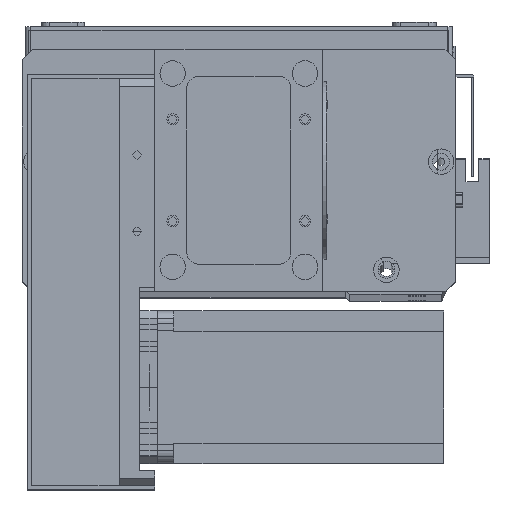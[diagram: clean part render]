
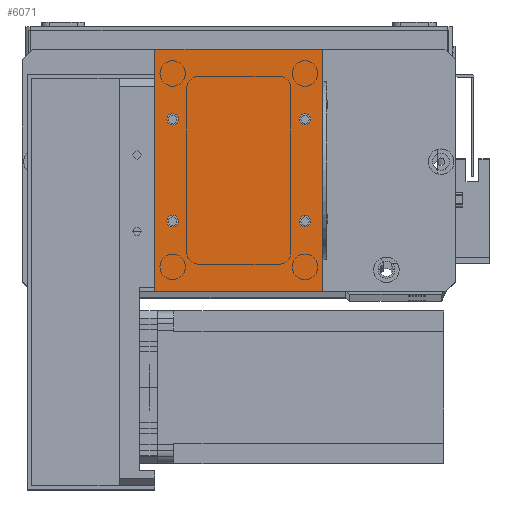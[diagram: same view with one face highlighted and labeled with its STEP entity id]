
A CAD part, top view. The second image highlights one B-rep face of the part: STEP entity #6071.
In plain terms, the highlighted planar face has unit normal (0, 0, 1).
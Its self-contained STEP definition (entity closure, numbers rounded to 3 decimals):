
#56 = CIRCLE ( 'NONE', #8124, 2.25 ) ;
#388 = CARTESIAN_POINT ( 'NONE',  ( 7., 67.5, 2. ) ) ;
#675 = EDGE_CURVE ( 'NONE', #29179, #32656, #3978, .T. ) ;
#938 = AXIS2_PLACEMENT_3D ( 'NONE', #4572, #22221, #7122 ) ;
#1188 = CARTESIAN_POINT ( 'NONE',  ( 0., 0., 2. ) ) ;
#1376 = CIRCLE ( 'NONE', #26912, 2.25 ) ;
#1389 = AXIS2_PLACEMENT_3D ( 'NONE', #10460, #28083, #13039 ) ;
#1893 = EDGE_LOOP ( 'NONE', ( #3931, #3055 ) ) ;
#2008 = DIRECTION ( 'NONE',  ( 0., 0., 1. ) ) ;
#2311 = CARTESIAN_POINT ( 'NONE',  ( 0., 0., 2. ) ) ;
#2525 = EDGE_CURVE ( 'NONE', #12620, #27032, #12170, .T. ) ;
#2618 = EDGE_CURVE ( 'NONE', #8606, #22276, #9745, .T. ) ;
#2932 = DIRECTION ( 'NONE',  ( 1., 0., 0. ) ) ;
#3055 = ORIENTED_EDGE ( 'NONE', *, *, #18185, .F. ) ;
#3191 = EDGE_LOOP ( 'NONE', ( #11255, #24444, #9358, #15906 ) ) ;
#3559 = PLANE ( 'NONE',  #16741 ) ;
#3931 = ORIENTED_EDGE ( 'NONE', *, *, #2618, .F. ) ;
#3959 = VERTEX_POINT ( 'NONE', #29389 ) ;
#3978 = LINE ( 'NONE', #20359, #23297 ) ;
#4427 = AXIS2_PLACEMENT_3D ( 'NONE', #388, #18073, #2932 ) ;
#4572 = CARTESIAN_POINT ( 'NONE',  ( 59., 67.5, 2. ) ) ;
#5036 = CARTESIAN_POINT ( 'NONE',  ( 66., 0., 2. ) ) ;
#5084 = FACE_BOUND ( 'NONE', #30360, .T. ) ;
#5107 = ORIENTED_EDGE ( 'NONE', *, *, #11245, .F. ) ;
#5994 = CARTESIAN_POINT ( 'NONE',  ( 0., 0., 2. ) ) ;
#6071 = ADVANCED_FACE ( 'NONE', ( #5084, #12619, #18540, #31110, #24373 ), #3559, .F. ) ;
#6092 = DIRECTION ( 'NONE',  ( 0., 0., -1. ) ) ;
#6785 = CARTESIAN_POINT ( 'NONE',  ( 4.75, 67.5, 2. ) ) ;
#7115 = LINE ( 'NONE', #2311, #19766 ) ;
#7122 = DIRECTION ( 'NONE',  ( 1., 0., 0. ) ) ;
#8111 = ORIENTED_EDGE ( 'NONE', *, *, #11149, .F. ) ;
#8124 = AXIS2_PLACEMENT_3D ( 'NONE', #24109, #9024, #26631 ) ;
#8214 = CARTESIAN_POINT ( 'NONE',  ( 61.25, 27.5, 2. ) ) ;
#8606 = VERTEX_POINT ( 'NONE', #23241 ) ;
#9024 = DIRECTION ( 'NONE',  ( 0., 0., 1. ) ) ;
#9358 = ORIENTED_EDGE ( 'NONE', *, *, #27673, .T. ) ;
#9456 = CARTESIAN_POINT ( 'NONE',  ( 61.25, 67.5, 2. ) ) ;
#9733 = CARTESIAN_POINT ( 'NONE',  ( 66., 0., 2. ) ) ;
#9745 = CIRCLE ( 'NONE', #14514, 2.25 ) ;
#9748 = CARTESIAN_POINT ( 'NONE',  ( 4.75, 27.5, 2. ) ) ;
#9871 = DIRECTION ( 'NONE',  ( 0., 0., 1. ) ) ;
#10417 = VERTEX_POINT ( 'NONE', #8214 ) ;
#10460 = CARTESIAN_POINT ( 'NONE',  ( 59., 67.5, 2. ) ) ;
#10576 = CARTESIAN_POINT ( 'NONE',  ( 56.75, 27.5, 2. ) ) ;
#11149 = EDGE_CURVE ( 'NONE', #27032, #12620, #21785, .T. ) ;
#11245 = EDGE_CURVE ( 'NONE', #18380, #10417, #56, .T. ) ;
#11255 = ORIENTED_EDGE ( 'NONE', *, *, #22012, .T. ) ;
#11596 = EDGE_CURVE ( 'NONE', #22192, #3959, #30061, .T. ) ;
#12170 = CIRCLE ( 'NONE', #938, 2.25 ) ;
#12619 = FACE_BOUND ( 'NONE', #15523, .T. ) ;
#12620 = VERTEX_POINT ( 'NONE', #13926 ) ;
#12790 = CIRCLE ( 'NONE', #13242, 2.25 ) ;
#12808 = CARTESIAN_POINT ( 'NONE',  ( 66., 95., 2. ) ) ;
#13039 = DIRECTION ( 'NONE',  ( 1., 0., 0. ) ) ;
#13242 = AXIS2_PLACEMENT_3D ( 'NONE', #30159, #15120, #32681 ) ;
#13923 = VERTEX_POINT ( 'NONE', #27243 ) ;
#13926 = CARTESIAN_POINT ( 'NONE',  ( 56.75, 67.5, 2. ) ) ;
#14514 = AXIS2_PLACEMENT_3D ( 'NONE', #30140, #15104, #32657 ) ;
#14913 = DIRECTION ( 'NONE',  ( 1., 0., 0. ) ) ;
#15104 = DIRECTION ( 'NONE',  ( 0., 0., 1. ) ) ;
#15120 = DIRECTION ( 'NONE',  ( 0., 0., 1. ) ) ;
#15420 = LINE ( 'NONE', #1188, #21289 ) ;
#15523 = EDGE_LOOP ( 'NONE', ( #8111, #24007 ) ) ;
#15906 = ORIENTED_EDGE ( 'NONE', *, *, #675, .T. ) ;
#16181 = CARTESIAN_POINT ( 'NONE',  ( 0., 95., 2. ) ) ;
#16741 = AXIS2_PLACEMENT_3D ( 'NONE', #5994, #6092, #23706 ) ;
#17133 = CARTESIAN_POINT ( 'NONE',  ( 7., 27.5, 2. ) ) ;
#17359 = LINE ( 'NONE', #9733, #19716 ) ;
#18073 = DIRECTION ( 'NONE',  ( 0., 0., 1. ) ) ;
#18185 = EDGE_CURVE ( 'NONE', #22276, #8606, #1376, .T. ) ;
#18380 = VERTEX_POINT ( 'NONE', #10576 ) ;
#18540 = FACE_BOUND ( 'NONE', #25607, .T. ) ;
#18896 = EDGE_CURVE ( 'NONE', #10417, #18380, #12790, .T. ) ;
#18944 = VERTEX_POINT ( 'NONE', #5036 ) ;
#19655 = DIRECTION ( 'NONE',  ( 1., 0., 0. ) ) ;
#19713 = ORIENTED_EDGE ( 'NONE', *, *, #11596, .F. ) ;
#19716 = VECTOR ( 'NONE', #27361, 1000. ) ;
#19766 = VECTOR ( 'NONE', #14913, 1000. ) ;
#20359 = CARTESIAN_POINT ( 'NONE',  ( 0., 95., 2. ) ) ;
#20482 = DIRECTION ( 'NONE',  ( -1., 0., 0. ) ) ;
#21241 = DIRECTION ( 'NONE',  ( 0., -1., 0. ) ) ;
#21289 = VECTOR ( 'NONE', #21241, 1000. ) ;
#21650 = EDGE_CURVE ( 'NONE', #13923, #18944, #7115, .T. ) ;
#21785 = CIRCLE ( 'NONE', #1389, 2.25 ) ;
#22012 = EDGE_CURVE ( 'NONE', #32656, #13923, #15420, .T. ) ;
#22192 = VERTEX_POINT ( 'NONE', #6785 ) ;
#22221 = DIRECTION ( 'NONE',  ( 0., 0., 1. ) ) ;
#22276 = VERTEX_POINT ( 'NONE', #9748 ) ;
#22277 = EDGE_CURVE ( 'NONE', #3959, #22192, #28347, .T. ) ;
#23241 = CARTESIAN_POINT ( 'NONE',  ( 9.25, 27.5, 2. ) ) ;
#23297 = VECTOR ( 'NONE', #20482, 1000. ) ;
#23706 = DIRECTION ( 'NONE',  ( -1., 0., 0. ) ) ;
#24007 = ORIENTED_EDGE ( 'NONE', *, *, #2525, .F. ) ;
#24109 = CARTESIAN_POINT ( 'NONE',  ( 59., 27.5, 2. ) ) ;
#24373 = FACE_OUTER_BOUND ( 'NONE', #3191, .T. ) ;
#24444 = ORIENTED_EDGE ( 'NONE', *, *, #21650, .T. ) ;
#24939 = CARTESIAN_POINT ( 'NONE',  ( 7., 67.5, 2. ) ) ;
#25607 = EDGE_LOOP ( 'NONE', ( #29640, #5107 ) ) ;
#26076 = ORIENTED_EDGE ( 'NONE', *, *, #22277, .F. ) ;
#26631 = DIRECTION ( 'NONE',  ( 1., 0., 0. ) ) ;
#26912 = AXIS2_PLACEMENT_3D ( 'NONE', #17133, #2008, #19655 ) ;
#27032 = VERTEX_POINT ( 'NONE', #9456 ) ;
#27243 = CARTESIAN_POINT ( 'NONE',  ( 0., 0., 2. ) ) ;
#27361 = DIRECTION ( 'NONE',  ( 0., 1., 0. ) ) ;
#27483 = DIRECTION ( 'NONE',  ( 1., 0., 0. ) ) ;
#27645 = AXIS2_PLACEMENT_3D ( 'NONE', #24939, #9871, #27483 ) ;
#27673 = EDGE_CURVE ( 'NONE', #18944, #29179, #17359, .T. ) ;
#28083 = DIRECTION ( 'NONE',  ( 0., 0., 1. ) ) ;
#28347 = CIRCLE ( 'NONE', #27645, 2.25 ) ;
#29179 = VERTEX_POINT ( 'NONE', #12808 ) ;
#29389 = CARTESIAN_POINT ( 'NONE',  ( 9.25, 67.5, 2. ) ) ;
#29640 = ORIENTED_EDGE ( 'NONE', *, *, #18896, .F. ) ;
#30061 = CIRCLE ( 'NONE', #4427, 2.25 ) ;
#30140 = CARTESIAN_POINT ( 'NONE',  ( 7., 27.5, 2. ) ) ;
#30159 = CARTESIAN_POINT ( 'NONE',  ( 59., 27.5, 2. ) ) ;
#30360 = EDGE_LOOP ( 'NONE', ( #26076, #19713 ) ) ;
#31110 = FACE_BOUND ( 'NONE', #1893, .T. ) ;
#32656 = VERTEX_POINT ( 'NONE', #16181 ) ;
#32657 = DIRECTION ( 'NONE',  ( 1., 0., 0. ) ) ;
#32681 = DIRECTION ( 'NONE',  ( 1., 0., 0. ) ) ;
